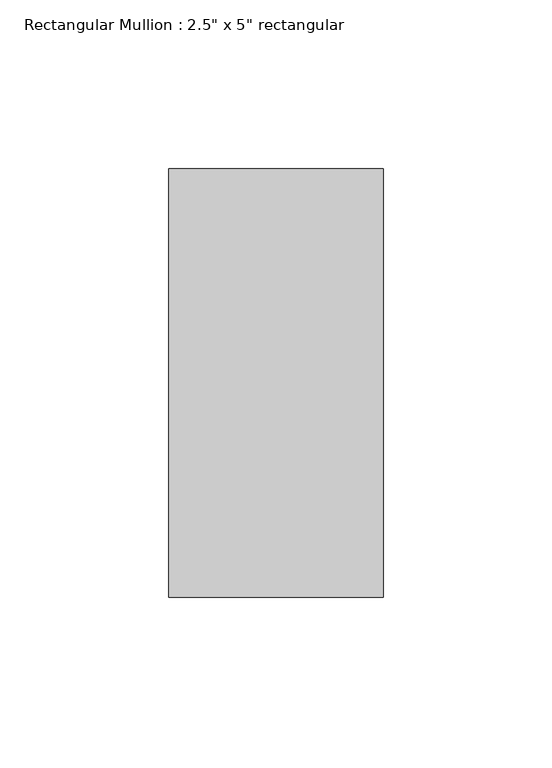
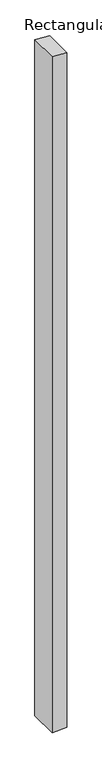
"""IFC4 building model written with IfcOpenShell, lengths in millimetres: member geometry."""

import ifcopenshell
import ifcopenshell.guid

model = None  # the IFC model being written
_history = None  # IfcOwnerHistory: only IFC2X3 demands one
_inside = {}  # id of a spatial element -> (the spatial element, [elements in it])
_under = {}  # id of a project, library or spatial element -> (it, [spatial elements below it])
_declared = {}  # id of a project -> (the project, [libraries it declares])
_typed = {}  # id of a type object -> (the type object, [elements of that type])
_made_of = {}  # id of a material, layer set ... -> (it, [elements and type objects made of it])


def new_model(schema):
    """Start an empty IFC model of exactly this schema.

    Asked for "IFC4X3", IfcOpenShell would pick the latest addendum, in which some entities
    have other attributes; the version numbers below select the first issue.
    IFC2X3 requires an IfcOwnerHistory on every rooted entity: one is made here for all.
    """
    global model, _history
    if schema == "IFC4X3":
        model = ifcopenshell.file(schema_version=(4, 3, 0, 0))
    else:
        model = ifcopenshell.file(schema=schema)
    _inside.clear()
    _under.clear()
    _declared.clear()
    _typed.clear()
    _made_of.clear()
    _history = None
    if model.schema == "IFC2X3":
        org = make("IfcOrganization", Name="unknown")
        user = make(
            "IfcPersonAndOrganization",
            ThePerson=make("IfcPerson", FamilyName="unknown"),
            TheOrganization=org,
        )
        app = make(
            "IfcApplication",
            ApplicationDeveloper=org,
            Version="unknown",
            ApplicationFullName="unknown",
            ApplicationIdentifier="unknown",
        )
        _history = make(
            "IfcOwnerHistory",
            OwningUser=user,
            OwningApplication=app,
            ChangeAction="ADDED",
            CreationDate=0,
        )
    return model


def make(cls, **values):
    """One entity of the class cls with the attributes given. An attribute that is None is left unset."""
    return model.create_entity(
        cls, **{name: value for name, value in values.items() if value is not None}
    )


def rooted(cls, **values):
    """An entity with a GlobalId (a new one), such as an element, a storey or a relation."""
    return make(cls, GlobalId=ifcopenshell.guid.new(), OwnerHistory=_history, **values)


def si_unit(unit_type, name, prefix=None):
    """IfcSIUnit, for example si_unit("LENGTHUNIT", "METRE", prefix="MILLI")."""
    return make("IfcSIUnit", UnitType=unit_type, Prefix=prefix, Name=name)


def assignment(units):
    """IfcUnitAssignment: the units of a project."""
    return None if units is None else make("IfcUnitAssignment", Units=units)


def point(xyz):
    """IfcCartesianPoint."""
    return None if xyz is None else make("IfcCartesianPoint", Coordinates=xyz)


def direction(xyz):
    """IfcDirection."""
    return None if xyz is None else make("IfcDirection", DirectionRatios=xyz)


def frame(location, z_axis=None, x_axis=None):
    """IfcAxis2Placement3D, a coordinate frame: its origin and axes. An axis left out is left unset."""
    return make(
        "IfcAxis2Placement3D",
        Location=point(location),
        Axis=direction(z_axis),
        RefDirection=direction(x_axis),
    )


def origin():
    """The frame at (0, 0, 0) with its axes left unset."""
    return frame((0.0, 0.0, 0.0))


def place(relative_to, where):
    """IfcLocalPlacement: puts the frame where relative to a parent placement (None: the world)."""
    return make(
        "IfcLocalPlacement", PlacementRelTo=relative_to, RelativePlacement=where
    )


def context(
    kind, dimensions, precision=None, world=None, true_north=None, identifier=None
):
    """IfcGeometricRepresentationContext, for example the 3D "Model" context."""
    return make(
        "IfcGeometricRepresentationContext",
        ContextIdentifier=identifier,
        ContextType=kind,
        CoordinateSpaceDimension=dimensions,
        Precision=precision,
        WorldCoordinateSystem=world,
        TrueNorth=true_north,
    )


def project(units=None, contexts=None):
    """IfcProject with its units and contexts."""
    return rooted(
        "IfcProject",
        Name="project",
        RepresentationContexts=contexts,
        UnitsInContext=assignment(units),
    )


def spatial(cls, under=None, at=None, **own):
    """A site, building, storey or space (cls), placed at a placement, below another one or the project."""
    s = rooted(cls, ObjectPlacement=at, **own)
    if under is not None:
        _under.setdefault(under.id(), (under, []))[1].append(s)
    return s


def polyline(points):
    """IfcPolyline through the points."""
    return make("IfcPolyline", Points=[point(p) for p in points])


def outline(outer, holes=None, kind="AREA"):
    """IfcArbitraryClosedProfileDef: a profile drawn as a closed curve; with holes, ...WithVoids."""
    if holes is None:
        return make("IfcArbitraryClosedProfileDef", ProfileType=kind, OuterCurve=outer)
    return make(
        "IfcArbitraryProfileDefWithVoids",
        ProfileType=kind,
        OuterCurve=outer,
        InnerCurves=holes,
    )


def extrude(swept, where, along, depth):
    """IfcExtrudedAreaSolid: the profile swept, set in the frame where, extruded along a direction by depth."""
    return make(
        "IfcExtrudedAreaSolid",
        SweptArea=swept,
        Position=where,
        ExtrudedDirection=direction(along),
        Depth=depth,
    )


def shape(context_of_items, identifier, shape_type, items):
    """IfcShapeRepresentation: the items that make up one representation, for example the "Body"."""
    return make(
        "IfcShapeRepresentation",
        ContextOfItems=context_of_items,
        RepresentationIdentifier=identifier,
        RepresentationType=shape_type,
        Items=items,
    )


def source(mapping_origin, context_of_items, identifier, shape_type, items):
    """IfcRepresentationMap: a shape defined once, which mapped items show again and again."""
    return make(
        "IfcRepresentationMap",
        MappingOrigin=mapping_origin,
        MappedRepresentation=shape(context_of_items, identifier, shape_type, items),
    )


def transform(
    local_origin,
    x_axis=None,
    y_axis=None,
    z_axis=None,
    scale=None,
    scale2=None,
    scale3=None,
    uniform=True,
):
    """IfcCartesianTransformationOperator3D, or its non-uniform kind. x_axis, y_axis, z_axis: its Axis1, 2, 3."""
    if uniform:
        return make(
            "IfcCartesianTransformationOperator3D",
            Axis1=direction(x_axis),
            Axis2=direction(y_axis),
            LocalOrigin=point(local_origin),
            Scale=scale,
            Axis3=direction(z_axis),
        )
    return make(
        "IfcCartesianTransformationOperator3DnonUniform",
        Axis1=direction(x_axis),
        Axis2=direction(y_axis),
        LocalOrigin=point(local_origin),
        Scale=scale,
        Axis3=direction(z_axis),
        Scale2=scale2,
        Scale3=scale3,
    )


def mapped(mapping_source, mapping_target):
    """IfcMappedItem: shows the shape of a source again, moved by a transform."""
    return make(
        "IfcMappedItem", MappingSource=mapping_source, MappingTarget=mapping_target
    )


def made_of(thing, what):
    """Note that an element or type object is made of a material, layer set ...; save() writes the relation."""
    if what is not None:
        _made_of.setdefault(what.id(), (what, []))[1].append(thing)
    return thing


def element(
    cls,
    number,
    at=None,
    inside=None,
    cuts=None,
    type_object=None,
    material=None,
    context=None,
    identifier="Body",
    shape_type=None,
    held_by="IfcProductDefinitionShape",
    body=None,
    shapes=None,
    **own,
):
    """One element of the class cls, such as IfcWall. Its Tag is "e" and its number.

    at: its placement. inside: the storey or other place that contains it. cuts: it is an
    opening in that element (IfcRelVoidsElement). A single representation is given by context,
    identifier, shape_type and body (its items); several are given by shapes. held_by: the class
    of the entity that holds the representations. save() writes the other relations.
    """
    e = rooted(cls, Tag="e%d" % number, ObjectPlacement=at, **own)
    if body is not None:
        shapes = [shape(context, identifier, shape_type, body)]
    if shapes is not None:
        e.Representation = make(held_by, Representations=shapes)
    if inside is not None:
        _inside.setdefault(inside.id(), (inside, []))[1].append(e)
    if cuts is not None:
        rooted(
            "IfcRelVoidsElement", RelatingBuildingElement=cuts, RelatedOpeningElement=e
        )
    if type_object is not None:
        _typed.setdefault(type_object.id(), (type_object, []))[1].append(e)
    return made_of(e, material)


def aggregate(whole, parts):
    """IfcRelAggregates: a whole, such as a stair, and the parts it consists of."""
    return rooted("IfcRelAggregates", RelatingObject=whole, RelatedObjects=parts)


def save(model, path):
    """Write the relations noted so far, then the file.

    IfcRelAggregates (storeys below a building ...), IfcRelContainedInSpatialStructure (elements
    in a storey), IfcRelDefinesByType, IfcRelAssociatesMaterial and IfcRelDeclares: one each for
    every whole, place, type object, material and project.
    """
    for whole, parts in _under.values():
        aggregate(whole, parts)
    for where, things in _inside.values():
        rooted(
            "IfcRelContainedInSpatialStructure",
            RelatedElements=things,
            RelatingStructure=where,
        )
    for kind, things in _typed.values():
        rooted("IfcRelDefinesByType", RelatedObjects=things, RelatingType=kind)
    for what, things in _made_of.values():
        rooted("IfcRelAssociatesMaterial", RelatedObjects=things, RelatingMaterial=what)
    for by, libraries in _declared.values():
        rooted("IfcRelDeclares", RelatingContext=by, RelatedDefinitions=libraries)
    model.write(path)


def member_d3a21094(model_context):
    return source(origin(), model_context, "Body", "SweptSolid", [
        extrude(outline(polyline([(0.0, 0.0), (2.7857558, -63.5), (-3052.5027709, -63.5), (-3049.7087255, 0.0), (0.0, 0.0)])), frame((0.0, -63.5, 0.0), z_axis=(0.0, 1.0, 0.0), x_axis=(0.0, 0.0, 1.0)), (0.0, 0.0, 1.0), 127.0),
    ])


if __name__ == "__main__":
    model = new_model("IFC4")
    model_context = context("Model", 3, world=origin())
    ifc_project = project(units=[si_unit("LENGTHUNIT", "METRE", prefix="MILLI")], contexts=[model_context])
    site = spatial("IfcSite", under=ifc_project)
    building = spatial("IfcBuilding", under=site)
    placement = place(None, origin())
    member_shape = member_d3a21094(model_context)
    element("IfcMember", 1, ObjectType="Rectangular Mullion : 2.5\" x 5\" rectangular", at=placement, inside=building, context=model_context, shape_type="MappedRepresentation", body=[
        mapped(member_shape, transform((0.0, 0.0, 0.0), x_axis=(1.0, 0.0, 0.0), y_axis=(0.0, 1.0, 0.0), z_axis=(0.0, 0.0, 1.0))),
    ])
    save(model, "model.ifc")
